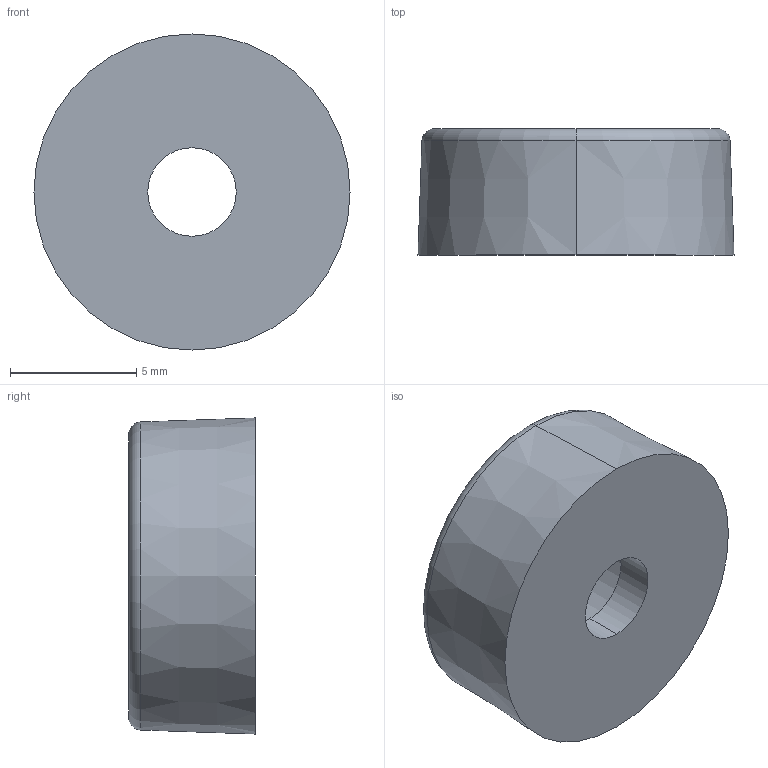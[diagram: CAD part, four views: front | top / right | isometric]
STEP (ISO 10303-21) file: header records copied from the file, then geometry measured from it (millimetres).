
FILE_DESCRIPTION (( 'STEP AP203' ), '1' );
FILE_NAME ('A-82.STEP', '2025-10-27T05:52:11', ( '' ), ( '' ), 'SwSTEP 2.0', 'SolidWorks 2021', '' );
FILE_SCHEMA (( 'CONFIG_CONTROL_DESIGN' ));
Length unit declared in the file: millimetre
Products named in the file (1): A-82
Bounding box: 12.5 x 5 x 12.5 mm (x, y, z)
Volume: 431.1 mm3; surface area: 500.5 mm2
Topology: 1 solids, 1 shells, 14 faces, 28 edges, 18 vertices
Faces by surface type: cylinder 6, plane 4, torus 2, cone 2
Entity records: 457 total; most frequent: DIRECTION 78, CARTESIAN_POINT 61, ORIENTED_EDGE 56, AXIS2_PLACEMENT_3D 35, EDGE_CURVE 28, CIRCLE 20, EDGE_LOOP 18, VERTEX_POINT 18
